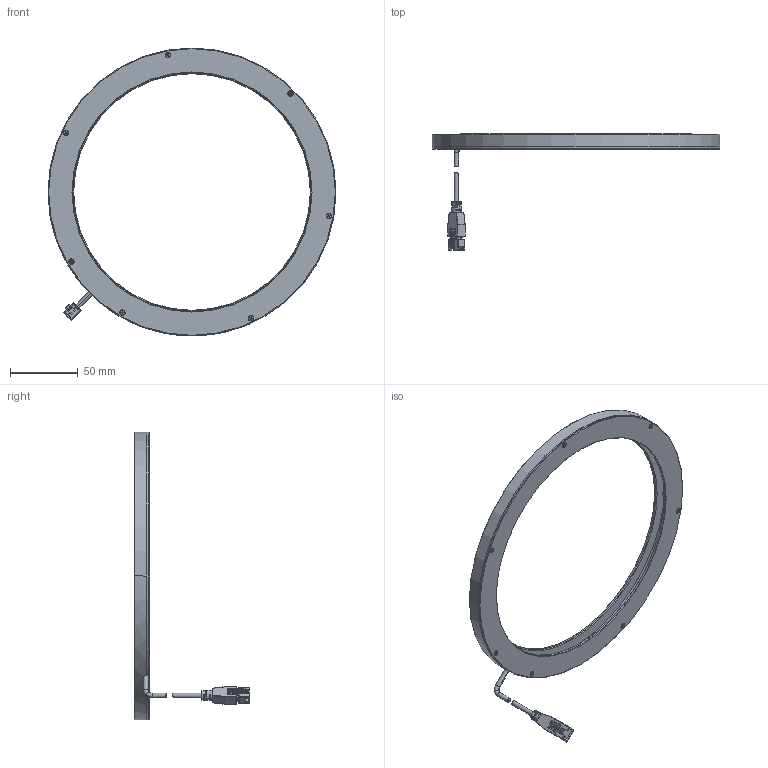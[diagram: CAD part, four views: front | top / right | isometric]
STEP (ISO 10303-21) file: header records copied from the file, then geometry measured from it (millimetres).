
FILE_DESCRIPTION((''),'2;1');
FILE_NAME('MV-LRDS-213-0_ASM','2019-09-19T',('rs-zhongwm'),(''),'PRO/ENGINEER BY PARAMETRIC TECHNOLOGY CORPORATION, 2010100','PRO/ENGINEER BY PARAMETRIC TECHNOLOGY CORPORATION, 2010100','');
FILE_SCHEMA(('CONFIG_CONTROL_DESIGN'));
Length unit declared in the file: millimetre
Products named in the file (8): P-RL-213-00-001_3; P-RL-213-00-002_2; P-RL-213-00-PCB_1; PRT0061; PRT0062; ASSY_ASM_22_ASM; PRT0063; MV-LRDS-213-0_ASM
Assembly tree (13 placements, depth 3):
  MV-LRDS-213-0_ASM
    P-RL-213-00-001_3
    P-RL-213-00-002_2
    P-RL-213-00-PCB_1
    ASSY_ASM_22_ASM
      PRT0061
      PRT0062
    PRT0063  x7
Bounding box: 213 x 85.6 x 213 mm (x, y, z)
Volume: 79105.5 mm3; surface area: 72908.9 mm2
Topology: 12 solids, 12 shells, 526 faces, 1381 edges, 877 vertices
Faces by surface type: plane 248, cylinder 182, cone 64, torus 12, bspline 10, sphere 10
Entity records: 12250 total; most frequent: CARTESIAN_POINT 2524, DIRECTION 2097, ORIENTED_EDGE 1954, EDGE_CURVE 977, AXIS2_PLACEMENT_3D 781, VERTEX_POINT 637, VECTOR 535, LINE 535
